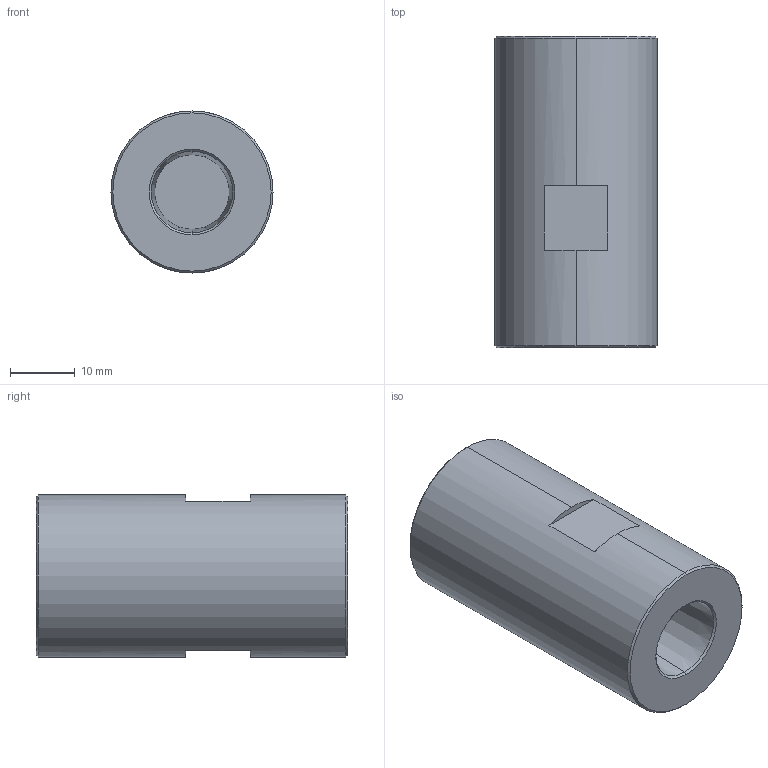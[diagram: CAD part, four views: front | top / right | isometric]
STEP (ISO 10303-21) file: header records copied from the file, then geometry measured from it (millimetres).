
FILE_DESCRIPTION (( 'STEP AP203' ), '1' );
FILE_NAME ('SW-PN-Y12.STEP', '2022-04-04T04:56:25', ( '' ), ( '' ), 'SwSTEP 2.0', 'SolidWorks 2015', '' );
FILE_SCHEMA (( 'CONFIG_CONTROL_DESIGN' ));
Length unit declared in the file: millimetre
Products named in the file (2): SW-PN-Y12
Bounding box: 25 x 48 x 25 mm (x, y, z)
Volume: 18773.1 mm3; surface area: 6265.5 mm2
Topology: 1 solids, 1 shells, 22 faces, 48 edges, 30 vertices
Faces by surface type: plane 10, cone 8, cylinder 4
Entity records: 765 total; most frequent: DIRECTION 122, CARTESIAN_POINT 102, ORIENTED_EDGE 96, AXIS2_PLACEMENT_3D 50, EDGE_CURVE 48, VERTEX_POINT 30, CIRCLE 26, EDGE_LOOP 24
